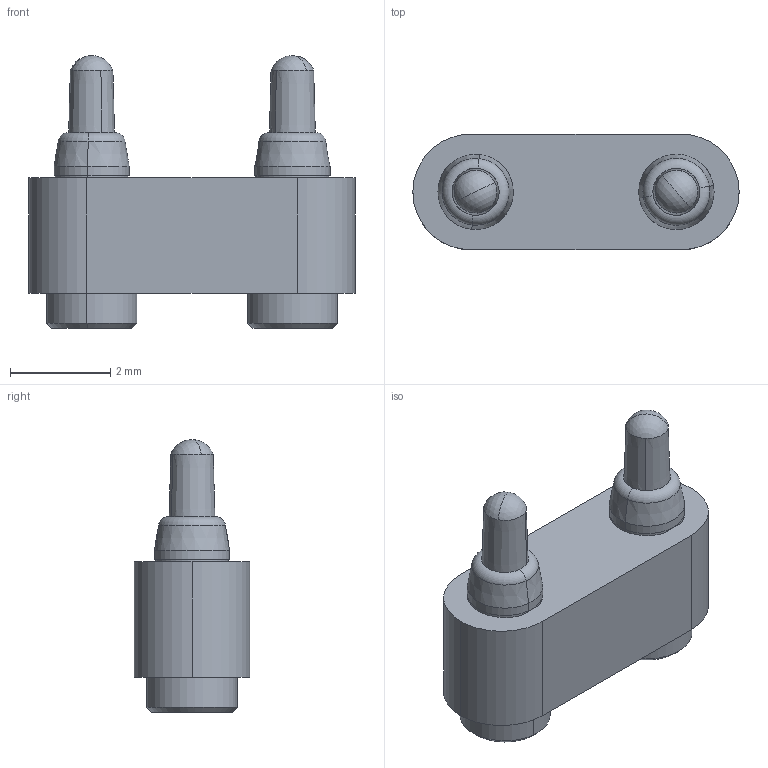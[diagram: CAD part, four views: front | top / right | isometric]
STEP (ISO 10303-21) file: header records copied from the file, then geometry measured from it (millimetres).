
FILE_DESCRIPTION((''),'2;1');
FILE_NAME('BTC-024_ANY_ASM','2008-06-30T',('GRA'),(''),'PRO/ENGINEER BY PARAMETRIC TECHNOLOGY CORPORATION, 2006170','PRO/ENGINEER BY PARAMETRIC TECHNOLOGY CORPORATION, 2006170','');
FILE_SCHEMA(('CONFIG_CONTROL_DESIGN'));
Length unit declared in the file: millimetre
Products named in the file (7): PAD__W___ANY_PRT; SPRING__W___ANY_PRT; SOLDER__W___ANY_PRT; PIN__W___ANY_PRT; POGO_PIN__W___ANY_ASM; HOUSING__W___ANY_PRT; BTC-024_ANY_ASM
Assembly tree (7 placements, depth 3):
  BTC-024_ANY_ASM
    POGO_PIN__W___ANY_ASM  x2
      PAD__W___ANY_PRT
      SPRING__W___ANY_PRT
      SOLDER__W___ANY_PRT
      PIN__W___ANY_PRT
    HOUSING__W___ANY_PRT
Bounding box: 6.5 x 2.3 x 5.44 mm (x, y, z)
Volume: 34.4 mm3; surface area: 191.5 mm2
Topology: 9 solids, 9 shells, 133 faces, 271 edges, 164 vertices
Faces by surface type: cylinder 47, cone 36, plane 34, torus 8, bspline 4, sphere 4
Entity records: 20769 total; most frequent: CARTESIAN_POINT 18850, DIRECTION 429, ORIENTED_EDGE 330, AXIS2_PLACEMENT_3D 180, EDGE_CURVE 165, VERTEX_POINT 101, EDGE_LOOP 88, CIRCLE 86
